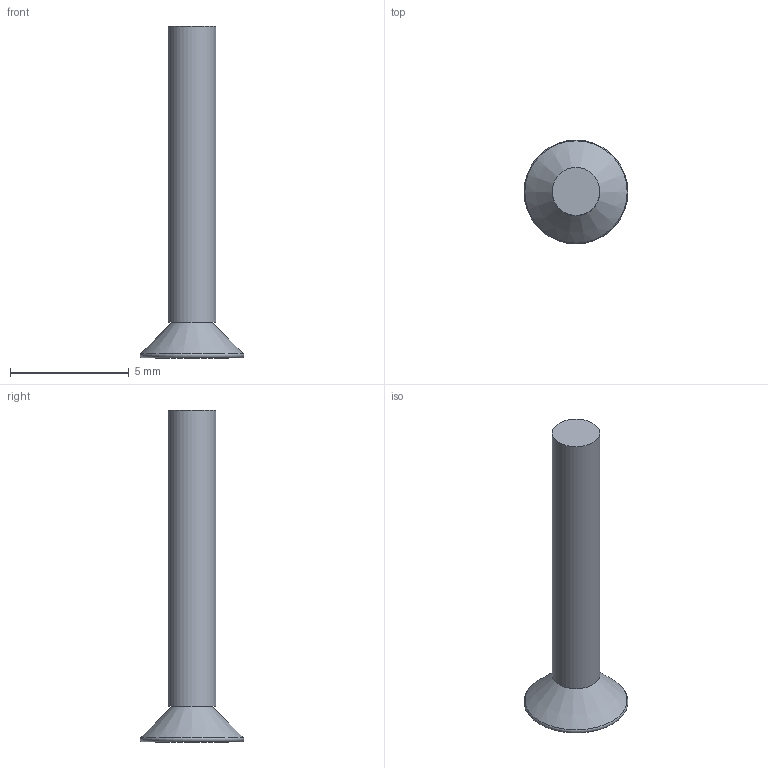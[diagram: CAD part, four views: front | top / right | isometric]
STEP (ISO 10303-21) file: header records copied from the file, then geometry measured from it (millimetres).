
FILE_DESCRIPTION(('Open CASCADE Model'),'2;1');
FILE_NAME('C27_R2_HW_Closure_-33.4_56','2026-09-10T02:58:45',('Author'), ('Open CASCADE'),'Open CASCADE STEP processor 7.9','build123d', 'Unknown');
FILE_SCHEMA(('AUTOMOTIVE_DESIGN { 1 0 10303 214 1 1 1 1 }'));
Length unit declared in the file: millimetre
Products named in the file (2): C27_R2_HW_Closure_-33.4_56
Assembly tree (1 placements, depth 2):
  C27_R2_HW_Closure_-33.4_56
    C27_R2_HW_Closure_-33.4_56
Bounding box: 4.38 x 4.38 x 14 mm (x, y, z)
Volume: 49.8 mm3; surface area: 125.3 mm2
Topology: 1 solids, 1 shells, 27 faces, 68 edges, 45 vertices
Faces by surface type: bspline 20, plane 4, cylinder 1, cone 1, torus 1
Full cylindrical faces by diameter (mm): 2.013 x1
Entity records: 2032 total; most frequent: CARTESIAN_POINT 802, DIRECTION 148, ORIENTED_EDGE 136, PCURVE 136, DEFINITIONAL_REPRESENTATION 136, LINE 106, VECTOR 106, B_SPLINE_CURVE_WITH_KNOTS 80
